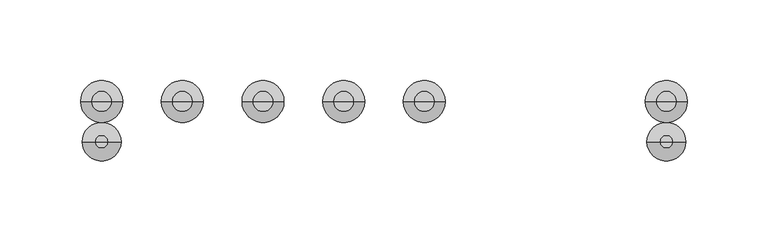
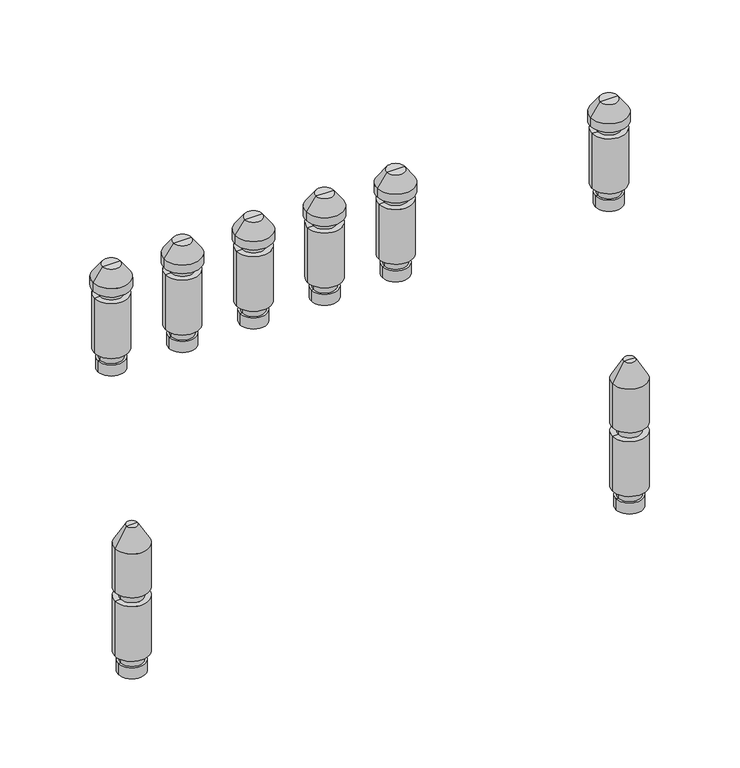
"""IFC4 building model written with IfcOpenShell, lengths in millimetres: valve geometry, PL CZ_Manifold_FT-VA : 09 circuits."""

from ifc_helpers import new_model, si_unit, frame, origin, place, context, project, spatial, polyline, circle_curve, source, transform, mapped, element, save
from ifc_brep_helpers import plane_surface, cylinder_surface, revolved_surface, advanced_brep


def valve_8079e6f7(model_context):
    return source(origin(), model_context, "Body", "AdvancedBrep", [
        advanced_brep(
        [(278.5, 25.0, 174.88733), (297.5, 25.0, 174.88733), (288.0, 25.0, 174.88733), (278.5, 25.0, 182.9630354), (297.5, 25.0, 182.9630354), (280.0, 25.0, 182.9630354), (296.0, 25.0, 182.9630354), (280.0, 25.0, 189.669747), (296.0, 25.0, 189.669747), (276.0, 25.0, 189.669747), (300.0, 25.0, 189.669747), (276.0, 25.0, 230.330253), (300.0, 25.0, 230.330253), (280.0, 25.0, 230.330253), (296.0, 25.0, 230.330253), (280.0, 25.0, 236.0474786), (296.0, 25.0, 236.0474786), (275.0, 25.0, 236.0474786), (301.0, 25.0, 236.0474786), (275.0, 25.0, 242.337955), (301.0, 25.0, 242.337955), (281.6551779, 25.0, 251.842534), (294.3448221, 25.0, 251.842534), (288.0, 25.0, 251.842534)],
        [
            (0, 1, circle_curve(frame((288.0, 25.0, 174.88733), z_axis=(0.0, 0.0, -1.0), x_axis=(1.0, 0.0, 0.0)), 9.5)),
            (1, 2),
            (2, 0),
            (1, 0, circle_curve(frame((288.0, 25.0, 174.88733), z_axis=(0.0, 0.0, -1.0), x_axis=(1.0, 0.0, 0.0)), 9.5)),
            (3, 4, circle_curve(frame((288.0, 25.0, 182.9630354), z_axis=(0.0, 0.0, -1.0), x_axis=(1.0, 0.0, 0.0)), 9.5)),
            (4, 1),
            (0, 3),
            (4, 3, circle_curve(frame((288.0, 25.0, 182.9630354), z_axis=(0.0, 0.0, -1.0), x_axis=(1.0, 0.0, 0.0)), 9.5)),
            (5, 6, circle_curve(frame((288.0, 25.0, 182.9630354), z_axis=(0.0, 0.0, -1.0), x_axis=(1.0, 0.0, 0.0)), 8.0)),
            (6, 4),
            (3, 5),
            (6, 5, circle_curve(frame((288.0, 25.0, 182.9630354), z_axis=(0.0, 0.0, -1.0), x_axis=(1.0, 0.0, 0.0)), 8.0)),
            (7, 8, circle_curve(frame((288.0, 25.0, 189.669747), z_axis=(0.0, 0.0, -1.0), x_axis=(1.0, 0.0, 0.0)), 8.0)),
            (8, 6),
            (5, 7),
            (8, 7, circle_curve(frame((288.0, 25.0, 189.669747), z_axis=(0.0, 0.0, -1.0), x_axis=(1.0, 0.0, 0.0)), 8.0)),
            (9, 10, circle_curve(frame((288.0, 25.0, 189.669747), z_axis=(0.0, 0.0, -1.0), x_axis=(1.0, 0.0, 0.0)), 12.0)),
            (10, 8),
            (7, 9),
            (10, 9, circle_curve(frame((288.0, 25.0, 189.669747), z_axis=(0.0, 0.0, -1.0), x_axis=(1.0, 0.0, 0.0)), 12.0)),
            (11, 12, circle_curve(frame((288.0, 25.0, 230.330253), z_axis=(0.0, 0.0, -1.0), x_axis=(1.0, 0.0, 0.0)), 12.0)),
            (12, 10),
            (9, 11),
            (12, 11, circle_curve(frame((288.0, 25.0, 230.330253), z_axis=(0.0, 0.0, -1.0), x_axis=(1.0, 0.0, 0.0)), 12.0)),
            (13, 14, circle_curve(frame((288.0, 25.0, 230.330253), z_axis=(0.0, 0.0, -1.0), x_axis=(1.0, 0.0, 0.0)), 8.0)),
            (14, 12),
            (11, 13),
            (14, 13, circle_curve(frame((288.0, 25.0, 230.330253), z_axis=(0.0, 0.0, -1.0), x_axis=(1.0, 0.0, 0.0)), 8.0)),
            (15, 16, circle_curve(frame((288.0, 25.0, 236.0474786), z_axis=(0.0, 0.0, -1.0), x_axis=(1.0, 0.0, 0.0)), 8.0)),
            (16, 14),
            (13, 15),
            (16, 15, circle_curve(frame((288.0, 25.0, 236.0474786), z_axis=(0.0, 0.0, -1.0), x_axis=(1.0, 0.0, 0.0)), 8.0)),
            (17, 18, circle_curve(frame((288.0, 25.0, 236.0474786), z_axis=(0.0, 0.0, -1.0), x_axis=(1.0, 0.0, 0.0)), 13.0)),
            (18, 16),
            (15, 17),
            (18, 17, circle_curve(frame((288.0, 25.0, 236.0474786), z_axis=(0.0, 0.0, -1.0), x_axis=(1.0, 0.0, 0.0)), 13.0)),
            (19, 20, circle_curve(frame((288.0, 25.0, 242.337955), z_axis=(0.0, 0.0, -1.0), x_axis=(1.0, 0.0, 0.0)), 13.0)),
            (20, 18),
            (17, 19),
            (20, 19, circle_curve(frame((288.0, 25.0, 242.337955), z_axis=(0.0, 0.0, -1.0), x_axis=(1.0, 0.0, 0.0)), 13.0)),
            (21, 22, circle_curve(frame((288.0, 25.0, 251.842534), z_axis=(0.0, 0.0, -1.0), x_axis=(1.0, 0.0, 0.0)), 6.3448221)),
            (22, 20),
            (19, 21),
            (22, 21, circle_curve(frame((288.0, 25.0, 251.842534), z_axis=(0.0, 0.0, -1.0), x_axis=(1.0, 0.0, 0.0)), 6.3448221)),
            (23, 22),
            (21, 23),
        ],
        [
            plane_surface(frame((288.0, 25.0, 174.88733), z_axis=(0.0, 0.0, -1.0), x_axis=(1.0, 0.0, 0.0))),
            cylinder_surface(frame((288.0, 25.0, 247.7026565), z_axis=(0.0, 0.0, 1.0), x_axis=(1.0, 0.0, 0.0)), 9.5),
            plane_surface(frame((288.0, 25.0, 182.9630354), z_axis=(0.0, 0.0, 1.0), x_axis=(1.0, 0.0, 0.0))),
            cylinder_surface(frame((288.0, 25.0, 247.7026565), z_axis=(0.0, 0.0, 1.0), x_axis=(1.0, 0.0, 0.0)), 8.0),
            plane_surface(frame((288.0, 25.0, 189.669747), z_axis=(0.0, 0.0, -1.0), x_axis=(1.0, 0.0, 0.0))),
            cylinder_surface(frame((288.0, 25.0, 247.7026565), z_axis=(0.0, 0.0, 1.0), x_axis=(1.0, 0.0, 0.0)), 12.0),
            plane_surface(frame((288.0, 25.0, 230.330253), z_axis=(0.0, 0.0, 1.0), x_axis=(1.0, 0.0, 0.0))),
            plane_surface(frame((288.0, 25.0, 236.0474786), z_axis=(0.0, 0.0, -1.0), x_axis=(1.0, 0.0, 0.0))),
            cylinder_surface(frame((288.0, 25.0, 247.7026565), z_axis=(0.0, 0.0, 1.0), x_axis=(1.0, 0.0, 0.0)), 13.0),
            revolved_surface(polyline([(301.0, 25.0, 242.337955), (294.3448221, 25.0, 251.842534)]), (288.0, 25.0, 247.7026565), (0.0, 0.0, 1.0)),
            plane_surface(frame((288.0, 25.0, 251.842534), z_axis=(0.0, 0.0, 1.0), x_axis=(1.0, 0.0, 0.0))),
        ],
        [
            (0, [[1, 2, 3]]),
            (0, [[4, -3, -2]]),
            (1, [[5, 6, -1, 7]]),
            (1, [[8, -7, -4, -6]]),
            (2, [[9, 10, -5, 11]]),
            (2, [[12, -11, -8, -10]]),
            (3, [[13, 14, -9, 15]]),
            (3, [[16, -15, -12, -14]]),
            (4, [[17, 18, -13, 19]]),
            (4, [[20, -19, -16, -18]]),
            (5, [[21, 22, -17, 23]]),
            (5, [[24, -23, -20, -22]]),
            (6, [[25, 26, -21, 27]]),
            (6, [[28, -27, -24, -26]]),
            (3, [[29, 30, -25, 31]]),
            (3, [[32, -31, -28, -30]]),
            (7, [[33, 34, -29, 35]]),
            (7, [[36, -35, -32, -34]]),
            (8, [[37, 38, -33, 39]]),
            (8, [[40, -39, -36, -38]]),
            (9, [[41, 42, -37, 43]]),
            (9, [[44, -43, -40, -42]]),
            (10, [[45, -41, 46]]),
            (10, [[-46, -44, -45]]),
        ],
    ),
        advanced_brep(
        [(228.5, 25.0, 174.88733), (247.5, 25.0, 174.88733), (238.0, 25.0, 174.88733), (228.5, 25.0, 182.9630354), (247.5, 25.0, 182.9630354), (230.0, 25.0, 182.9630354), (246.0, 25.0, 182.9630354), (230.0, 25.0, 189.669747), (246.0, 25.0, 189.669747), (226.0, 25.0, 189.669747), (250.0, 25.0, 189.669747), (226.0, 25.0, 230.330253), (250.0, 25.0, 230.330253), (230.0, 25.0, 230.330253), (246.0, 25.0, 230.330253), (230.0, 25.0, 236.0474786), (246.0, 25.0, 236.0474786), (225.0, 25.0, 236.0474786), (251.0, 25.0, 236.0474786), (225.0, 25.0, 242.337955), (251.0, 25.0, 242.337955), (231.6551779, 25.0, 251.842534), (244.3448221, 25.0, 251.842534), (238.0, 25.0, 251.842534)],
        [
            (0, 1, circle_curve(frame((238.0, 25.0, 174.88733), z_axis=(0.0, 0.0, -1.0), x_axis=(1.0, 0.0, 0.0)), 9.5)),
            (1, 2),
            (2, 0),
            (1, 0, circle_curve(frame((238.0, 25.0, 174.88733), z_axis=(0.0, 0.0, -1.0), x_axis=(1.0, 0.0, 0.0)), 9.5)),
            (3, 4, circle_curve(frame((238.0, 25.0, 182.9630354), z_axis=(0.0, 0.0, -1.0), x_axis=(1.0, 0.0, 0.0)), 9.5)),
            (4, 1),
            (0, 3),
            (4, 3, circle_curve(frame((238.0, 25.0, 182.9630354), z_axis=(0.0, 0.0, -1.0), x_axis=(1.0, 0.0, 0.0)), 9.5)),
            (5, 6, circle_curve(frame((238.0, 25.0, 182.9630354), z_axis=(0.0, 0.0, -1.0), x_axis=(1.0, 0.0, 0.0)), 8.0)),
            (6, 4),
            (3, 5),
            (6, 5, circle_curve(frame((238.0, 25.0, 182.9630354), z_axis=(0.0, 0.0, -1.0), x_axis=(1.0, 0.0, 0.0)), 8.0)),
            (7, 8, circle_curve(frame((238.0, 25.0, 189.669747), z_axis=(0.0, 0.0, -1.0), x_axis=(1.0, 0.0, 0.0)), 8.0)),
            (8, 6),
            (5, 7),
            (8, 7, circle_curve(frame((238.0, 25.0, 189.669747), z_axis=(0.0, 0.0, -1.0), x_axis=(1.0, 0.0, 0.0)), 8.0)),
            (9, 10, circle_curve(frame((238.0, 25.0, 189.669747), z_axis=(0.0, 0.0, -1.0), x_axis=(1.0, 0.0, 0.0)), 12.0)),
            (10, 8),
            (7, 9),
            (10, 9, circle_curve(frame((238.0, 25.0, 189.669747), z_axis=(0.0, 0.0, -1.0), x_axis=(1.0, 0.0, 0.0)), 12.0)),
            (11, 12, circle_curve(frame((238.0, 25.0, 230.330253), z_axis=(0.0, 0.0, -1.0), x_axis=(1.0, 0.0, 0.0)), 12.0)),
            (12, 10),
            (9, 11),
            (12, 11, circle_curve(frame((238.0, 25.0, 230.330253), z_axis=(0.0, 0.0, -1.0), x_axis=(1.0, 0.0, 0.0)), 12.0)),
            (13, 14, circle_curve(frame((238.0, 25.0, 230.330253), z_axis=(0.0, 0.0, -1.0), x_axis=(1.0, 0.0, 0.0)), 8.0)),
            (14, 12),
            (11, 13),
            (14, 13, circle_curve(frame((238.0, 25.0, 230.330253), z_axis=(0.0, 0.0, -1.0), x_axis=(1.0, 0.0, 0.0)), 8.0)),
            (15, 16, circle_curve(frame((238.0, 25.0, 236.0474786), z_axis=(0.0, 0.0, -1.0), x_axis=(1.0, 0.0, 0.0)), 8.0)),
            (16, 14),
            (13, 15),
            (16, 15, circle_curve(frame((238.0, 25.0, 236.0474786), z_axis=(0.0, 0.0, -1.0), x_axis=(1.0, 0.0, 0.0)), 8.0)),
            (17, 18, circle_curve(frame((238.0, 25.0, 236.0474786), z_axis=(0.0, 0.0, -1.0), x_axis=(1.0, 0.0, 0.0)), 13.0)),
            (18, 16),
            (15, 17),
            (18, 17, circle_curve(frame((238.0, 25.0, 236.0474786), z_axis=(0.0, 0.0, -1.0), x_axis=(1.0, 0.0, 0.0)), 13.0)),
            (19, 20, circle_curve(frame((238.0, 25.0, 242.337955), z_axis=(0.0, 0.0, -1.0), x_axis=(1.0, 0.0, 0.0)), 13.0)),
            (20, 18),
            (17, 19),
            (20, 19, circle_curve(frame((238.0, 25.0, 242.337955), z_axis=(0.0, 0.0, -1.0), x_axis=(1.0, 0.0, 0.0)), 13.0)),
            (21, 22, circle_curve(frame((238.0, 25.0, 251.842534), z_axis=(0.0, 0.0, -1.0), x_axis=(1.0, 0.0, 0.0)), 6.3448221)),
            (22, 20),
            (19, 21),
            (22, 21, circle_curve(frame((238.0, 25.0, 251.842534), z_axis=(0.0, 0.0, -1.0), x_axis=(1.0, 0.0, 0.0)), 6.3448221)),
            (23, 22),
            (21, 23),
        ],
        [
            plane_surface(frame((238.0, 25.0, 174.88733), z_axis=(0.0, 0.0, -1.0), x_axis=(1.0, 0.0, 0.0))),
            cylinder_surface(frame((238.0, 25.0, 247.7026565), z_axis=(0.0, 0.0, 1.0), x_axis=(1.0, 0.0, 0.0)), 9.5),
            plane_surface(frame((238.0, 25.0, 182.9630354), z_axis=(0.0, 0.0, 1.0), x_axis=(1.0, 0.0, 0.0))),
            cylinder_surface(frame((238.0, 25.0, 247.7026565), z_axis=(0.0, 0.0, 1.0), x_axis=(1.0, 0.0, 0.0)), 8.0),
            plane_surface(frame((238.0, 25.0, 189.669747), z_axis=(0.0, 0.0, -1.0), x_axis=(1.0, 0.0, 0.0))),
            cylinder_surface(frame((238.0, 25.0, 247.7026565), z_axis=(0.0, 0.0, 1.0), x_axis=(1.0, 0.0, 0.0)), 12.0),
            plane_surface(frame((238.0, 25.0, 230.330253), z_axis=(0.0, 0.0, 1.0), x_axis=(1.0, 0.0, 0.0))),
            plane_surface(frame((238.0, 25.0, 236.0474786), z_axis=(0.0, 0.0, -1.0), x_axis=(1.0, 0.0, 0.0))),
            cylinder_surface(frame((238.0, 25.0, 247.7026565), z_axis=(0.0, 0.0, 1.0), x_axis=(1.0, 0.0, 0.0)), 13.0),
            revolved_surface(polyline([(251.0, 25.0, 242.337955), (244.3448221, 25.0, 251.842534)]), (238.0, 25.0, 247.7026565), (0.0, 0.0, 1.0)),
            plane_surface(frame((238.0, 25.0, 251.842534), z_axis=(0.0, 0.0, 1.0), x_axis=(1.0, 0.0, 0.0))),
        ],
        [
            (0, [[1, 2, 3]]),
            (0, [[4, -3, -2]]),
            (1, [[5, 6, -1, 7]]),
            (1, [[8, -7, -4, -6]]),
            (2, [[9, 10, -5, 11]]),
            (2, [[12, -11, -8, -10]]),
            (3, [[13, 14, -9, 15]]),
            (3, [[16, -15, -12, -14]]),
            (4, [[17, 18, -13, 19]]),
            (4, [[20, -19, -16, -18]]),
            (5, [[21, 22, -17, 23]]),
            (5, [[24, -23, -20, -22]]),
            (6, [[25, 26, -21, 27]]),
            (6, [[28, -27, -24, -26]]),
            (3, [[29, 30, -25, 31]]),
            (3, [[32, -31, -28, -30]]),
            (7, [[33, 34, -29, 35]]),
            (7, [[36, -35, -32, -34]]),
            (8, [[37, 38, -33, 39]]),
            (8, [[40, -39, -36, -38]]),
            (9, [[41, 42, -37, 43]]),
            (9, [[44, -43, -40, -42]]),
            (10, [[45, -41, 46]]),
            (10, [[-46, -44, -45]]),
        ],
    ),
        advanced_brep(
        [(178.5, 25.0, 174.88733), (197.5, 25.0, 174.88733), (188.0, 25.0, 174.88733), (178.5, 25.0, 182.9630354), (197.5, 25.0, 182.9630354), (180.0, 25.0, 182.9630354), (196.0, 25.0, 182.9630354), (180.0, 25.0, 189.669747), (196.0, 25.0, 189.669747), (176.0, 25.0, 189.669747), (200.0, 25.0, 189.669747), (176.0, 25.0, 230.330253), (200.0, 25.0, 230.330253), (180.0, 25.0, 230.330253), (196.0, 25.0, 230.330253), (180.0, 25.0, 236.0474786), (196.0, 25.0, 236.0474786), (175.0, 25.0, 236.0474786), (201.0, 25.0, 236.0474786), (175.0, 25.0, 242.337955), (201.0, 25.0, 242.337955), (181.6551779, 25.0, 251.842534), (194.3448221, 25.0, 251.842534), (188.0, 25.0, 251.842534)],
        [
            (0, 1, circle_curve(frame((188.0, 25.0, 174.88733), z_axis=(0.0, 0.0, -1.0), x_axis=(1.0, 0.0, 0.0)), 9.5)),
            (1, 2),
            (2, 0),
            (1, 0, circle_curve(frame((188.0, 25.0, 174.88733), z_axis=(0.0, 0.0, -1.0), x_axis=(1.0, 0.0, 0.0)), 9.5)),
            (3, 4, circle_curve(frame((188.0, 25.0, 182.9630354), z_axis=(0.0, 0.0, -1.0), x_axis=(1.0, 0.0, 0.0)), 9.5)),
            (4, 1),
            (0, 3),
            (4, 3, circle_curve(frame((188.0, 25.0, 182.9630354), z_axis=(0.0, 0.0, -1.0), x_axis=(1.0, 0.0, 0.0)), 9.5)),
            (5, 6, circle_curve(frame((188.0, 25.0, 182.9630354), z_axis=(0.0, 0.0, -1.0), x_axis=(1.0, 0.0, 0.0)), 8.0)),
            (6, 4),
            (3, 5),
            (6, 5, circle_curve(frame((188.0, 25.0, 182.9630354), z_axis=(0.0, 0.0, -1.0), x_axis=(1.0, 0.0, 0.0)), 8.0)),
            (7, 8, circle_curve(frame((188.0, 25.0, 189.669747), z_axis=(0.0, 0.0, -1.0), x_axis=(1.0, 0.0, 0.0)), 8.0)),
            (8, 6),
            (5, 7),
            (8, 7, circle_curve(frame((188.0, 25.0, 189.669747), z_axis=(0.0, 0.0, -1.0), x_axis=(1.0, 0.0, 0.0)), 8.0)),
            (9, 10, circle_curve(frame((188.0, 25.0, 189.669747), z_axis=(0.0, 0.0, -1.0), x_axis=(1.0, 0.0, 0.0)), 12.0)),
            (10, 8),
            (7, 9),
            (10, 9, circle_curve(frame((188.0, 25.0, 189.669747), z_axis=(0.0, 0.0, -1.0), x_axis=(1.0, 0.0, 0.0)), 12.0)),
            (11, 12, circle_curve(frame((188.0, 25.0, 230.330253), z_axis=(0.0, 0.0, -1.0), x_axis=(1.0, 0.0, 0.0)), 12.0)),
            (12, 10),
            (9, 11),
            (12, 11, circle_curve(frame((188.0, 25.0, 230.330253), z_axis=(0.0, 0.0, -1.0), x_axis=(1.0, 0.0, 0.0)), 12.0)),
            (13, 14, circle_curve(frame((188.0, 25.0, 230.330253), z_axis=(0.0, 0.0, -1.0), x_axis=(1.0, 0.0, 0.0)), 8.0)),
            (14, 12),
            (11, 13),
            (14, 13, circle_curve(frame((188.0, 25.0, 230.330253), z_axis=(0.0, 0.0, -1.0), x_axis=(1.0, 0.0, 0.0)), 8.0)),
            (15, 16, circle_curve(frame((188.0, 25.0, 236.0474786), z_axis=(0.0, 0.0, -1.0), x_axis=(1.0, 0.0, 0.0)), 8.0)),
            (16, 14),
            (13, 15),
            (16, 15, circle_curve(frame((188.0, 25.0, 236.0474786), z_axis=(0.0, 0.0, -1.0), x_axis=(1.0, 0.0, 0.0)), 8.0)),
            (17, 18, circle_curve(frame((188.0, 25.0, 236.0474786), z_axis=(0.0, 0.0, -1.0), x_axis=(1.0, 0.0, 0.0)), 13.0)),
            (18, 16),
            (15, 17),
            (18, 17, circle_curve(frame((188.0, 25.0, 236.0474786), z_axis=(0.0, 0.0, -1.0), x_axis=(1.0, 0.0, 0.0)), 13.0)),
            (19, 20, circle_curve(frame((188.0, 25.0, 242.337955), z_axis=(0.0, 0.0, -1.0), x_axis=(1.0, 0.0, 0.0)), 13.0)),
            (20, 18),
            (17, 19),
            (20, 19, circle_curve(frame((188.0, 25.0, 242.337955), z_axis=(0.0, 0.0, -1.0), x_axis=(1.0, 0.0, 0.0)), 13.0)),
            (21, 22, circle_curve(frame((188.0, 25.0, 251.842534), z_axis=(0.0, 0.0, -1.0), x_axis=(1.0, 0.0, 0.0)), 6.3448221)),
            (22, 20),
            (19, 21),
            (22, 21, circle_curve(frame((188.0, 25.0, 251.842534), z_axis=(0.0, 0.0, -1.0), x_axis=(1.0, 0.0, 0.0)), 6.3448221)),
            (23, 22),
            (21, 23),
        ],
        [
            plane_surface(frame((188.0, 25.0, 174.88733), z_axis=(0.0, 0.0, -1.0), x_axis=(1.0, 0.0, 0.0))),
            cylinder_surface(frame((188.0, 25.0, 247.7026565), z_axis=(0.0, 0.0, 1.0), x_axis=(1.0, 0.0, 0.0)), 9.5),
            plane_surface(frame((188.0, 25.0, 182.9630354), z_axis=(0.0, 0.0, 1.0), x_axis=(1.0, 0.0, 0.0))),
            cylinder_surface(frame((188.0, 25.0, 247.7026565), z_axis=(0.0, 0.0, 1.0), x_axis=(1.0, 0.0, 0.0)), 8.0),
            plane_surface(frame((188.0, 25.0, 189.669747), z_axis=(0.0, 0.0, -1.0), x_axis=(1.0, 0.0, 0.0))),
            cylinder_surface(frame((188.0, 25.0, 247.7026565), z_axis=(0.0, 0.0, 1.0), x_axis=(1.0, 0.0, 0.0)), 12.0),
            plane_surface(frame((188.0, 25.0, 230.330253), z_axis=(0.0, 0.0, 1.0), x_axis=(1.0, 0.0, 0.0))),
            plane_surface(frame((188.0, 25.0, 236.0474786), z_axis=(0.0, 0.0, -1.0), x_axis=(1.0, 0.0, 0.0))),
            cylinder_surface(frame((188.0, 25.0, 247.7026565), z_axis=(0.0, 0.0, 1.0), x_axis=(1.0, 0.0, 0.0)), 13.0),
            revolved_surface(polyline([(201.0, 25.0, 242.337955), (194.3448221, 25.0, 251.842534)]), (188.0, 25.0, 247.7026565), (0.0, 0.0, 1.0)),
            plane_surface(frame((188.0, 25.0, 251.842534), z_axis=(0.0, 0.0, 1.0), x_axis=(1.0, 0.0, 0.0))),
        ],
        [
            (0, [[1, 2, 3]]),
            (0, [[4, -3, -2]]),
            (1, [[5, 6, -1, 7]]),
            (1, [[8, -7, -4, -6]]),
            (2, [[9, 10, -5, 11]]),
            (2, [[12, -11, -8, -10]]),
            (3, [[13, 14, -9, 15]]),
            (3, [[16, -15, -12, -14]]),
            (4, [[17, 18, -13, 19]]),
            (4, [[20, -19, -16, -18]]),
            (5, [[21, 22, -17, 23]]),
            (5, [[24, -23, -20, -22]]),
            (6, [[25, 26, -21, 27]]),
            (6, [[28, -27, -24, -26]]),
            (3, [[29, 30, -25, 31]]),
            (3, [[32, -31, -28, -30]]),
            (7, [[33, 34, -29, 35]]),
            (7, [[36, -35, -32, -34]]),
            (8, [[37, 38, -33, 39]]),
            (8, [[40, -39, -36, -38]]),
            (9, [[41, 42, -37, 43]]),
            (9, [[44, -43, -40, -42]]),
            (10, [[45, -41, 46]]),
            (10, [[-46, -44, -45]]),
        ],
    ),
        advanced_brep(
        [(128.5, 25.0, 174.88733), (147.5, 25.0, 174.88733), (138.0, 25.0, 174.88733), (128.5, 25.0, 182.9630354), (147.5, 25.0, 182.9630354), (130.0, 25.0, 182.9630354), (146.0, 25.0, 182.9630354), (130.0, 25.0, 189.669747), (146.0, 25.0, 189.669747), (126.0, 25.0, 189.669747), (150.0, 25.0, 189.669747), (126.0, 25.0, 230.330253), (150.0, 25.0, 230.330253), (130.0, 25.0, 230.330253), (146.0, 25.0, 230.330253), (130.0, 25.0, 236.0474786), (146.0, 25.0, 236.0474786), (125.0, 25.0, 236.0474786), (151.0, 25.0, 236.0474786), (125.0, 25.0, 242.337955), (151.0, 25.0, 242.337955), (131.6551779, 25.0, 251.842534), (144.3448221, 25.0, 251.842534), (138.0, 25.0, 251.842534)],
        [
            (0, 1, circle_curve(frame((138.0, 25.0, 174.88733), z_axis=(0.0, 0.0, -1.0), x_axis=(1.0, 0.0, 0.0)), 9.5)),
            (1, 2),
            (2, 0),
            (1, 0, circle_curve(frame((138.0, 25.0, 174.88733), z_axis=(0.0, 0.0, -1.0), x_axis=(1.0, 0.0, 0.0)), 9.5)),
            (3, 4, circle_curve(frame((138.0, 25.0, 182.9630354), z_axis=(0.0, 0.0, -1.0), x_axis=(1.0, 0.0, 0.0)), 9.5)),
            (4, 1),
            (0, 3),
            (4, 3, circle_curve(frame((138.0, 25.0, 182.9630354), z_axis=(0.0, 0.0, -1.0), x_axis=(1.0, 0.0, 0.0)), 9.5)),
            (5, 6, circle_curve(frame((138.0, 25.0, 182.9630354), z_axis=(0.0, 0.0, -1.0), x_axis=(1.0, 0.0, 0.0)), 8.0)),
            (6, 4),
            (3, 5),
            (6, 5, circle_curve(frame((138.0, 25.0, 182.9630354), z_axis=(0.0, 0.0, -1.0), x_axis=(1.0, 0.0, 0.0)), 8.0)),
            (7, 8, circle_curve(frame((138.0, 25.0, 189.669747), z_axis=(0.0, 0.0, -1.0), x_axis=(1.0, 0.0, 0.0)), 8.0)),
            (8, 6),
            (5, 7),
            (8, 7, circle_curve(frame((138.0, 25.0, 189.669747), z_axis=(0.0, 0.0, -1.0), x_axis=(1.0, 0.0, 0.0)), 8.0)),
            (9, 10, circle_curve(frame((138.0, 25.0, 189.669747), z_axis=(0.0, 0.0, -1.0), x_axis=(1.0, 0.0, 0.0)), 12.0)),
            (10, 8),
            (7, 9),
            (10, 9, circle_curve(frame((138.0, 25.0, 189.669747), z_axis=(0.0, 0.0, -1.0), x_axis=(1.0, 0.0, 0.0)), 12.0)),
            (11, 12, circle_curve(frame((138.0, 25.0, 230.330253), z_axis=(0.0, 0.0, -1.0), x_axis=(1.0, 0.0, 0.0)), 12.0)),
            (12, 10),
            (9, 11),
            (12, 11, circle_curve(frame((138.0, 25.0, 230.330253), z_axis=(0.0, 0.0, -1.0), x_axis=(1.0, 0.0, 0.0)), 12.0)),
            (13, 14, circle_curve(frame((138.0, 25.0, 230.330253), z_axis=(0.0, 0.0, -1.0), x_axis=(1.0, 0.0, 0.0)), 8.0)),
            (14, 12),
            (11, 13),
            (14, 13, circle_curve(frame((138.0, 25.0, 230.330253), z_axis=(0.0, 0.0, -1.0), x_axis=(1.0, 0.0, 0.0)), 8.0)),
            (15, 16, circle_curve(frame((138.0, 25.0, 236.0474786), z_axis=(0.0, 0.0, -1.0), x_axis=(1.0, 0.0, 0.0)), 8.0)),
            (16, 14),
            (13, 15),
            (16, 15, circle_curve(frame((138.0, 25.0, 236.0474786), z_axis=(0.0, 0.0, -1.0), x_axis=(1.0, 0.0, 0.0)), 8.0)),
            (17, 18, circle_curve(frame((138.0, 25.0, 236.0474786), z_axis=(0.0, 0.0, -1.0), x_axis=(1.0, 0.0, 0.0)), 13.0)),
            (18, 16),
            (15, 17),
            (18, 17, circle_curve(frame((138.0, 25.0, 236.0474786), z_axis=(0.0, 0.0, -1.0), x_axis=(1.0, 0.0, 0.0)), 13.0)),
            (19, 20, circle_curve(frame((138.0, 25.0, 242.337955), z_axis=(0.0, 0.0, -1.0), x_axis=(1.0, 0.0, 0.0)), 13.0)),
            (20, 18),
            (17, 19),
            (20, 19, circle_curve(frame((138.0, 25.0, 242.337955), z_axis=(0.0, 0.0, -1.0), x_axis=(1.0, 0.0, 0.0)), 13.0)),
            (21, 22, circle_curve(frame((138.0, 25.0, 251.842534), z_axis=(0.0, 0.0, -1.0), x_axis=(1.0, 0.0, 0.0)), 6.3448221)),
            (22, 20),
            (19, 21),
            (22, 21, circle_curve(frame((138.0, 25.0, 251.842534), z_axis=(0.0, 0.0, -1.0), x_axis=(1.0, 0.0, 0.0)), 6.3448221)),
            (23, 22),
            (21, 23),
        ],
        [
            plane_surface(frame((138.0, 25.0, 174.88733), z_axis=(0.0, 0.0, -1.0), x_axis=(1.0, 0.0, 0.0))),
            cylinder_surface(frame((138.0, 25.0, 247.7026565), z_axis=(0.0, 0.0, 1.0), x_axis=(1.0, 0.0, 0.0)), 9.5),
            plane_surface(frame((138.0, 25.0, 182.9630354), z_axis=(0.0, 0.0, 1.0), x_axis=(1.0, 0.0, 0.0))),
            cylinder_surface(frame((138.0, 25.0, 247.7026565), z_axis=(0.0, 0.0, 1.0), x_axis=(1.0, 0.0, 0.0)), 8.0),
            plane_surface(frame((138.0, 25.0, 189.669747), z_axis=(0.0, 0.0, -1.0), x_axis=(1.0, 0.0, 0.0))),
            cylinder_surface(frame((138.0, 25.0, 247.7026565), z_axis=(0.0, 0.0, 1.0), x_axis=(1.0, 0.0, 0.0)), 12.0),
            plane_surface(frame((138.0, 25.0, 230.330253), z_axis=(0.0, 0.0, 1.0), x_axis=(1.0, 0.0, 0.0))),
            plane_surface(frame((138.0, 25.0, 236.0474786), z_axis=(0.0, 0.0, -1.0), x_axis=(1.0, 0.0, 0.0))),
            cylinder_surface(frame((138.0, 25.0, 247.7026565), z_axis=(0.0, 0.0, 1.0), x_axis=(1.0, 0.0, 0.0)), 13.0),
            revolved_surface(polyline([(151.0, 25.0, 242.337955), (144.3448221, 25.0, 251.842534)]), (138.0, 25.0, 247.7026565), (0.0, 0.0, 1.0)),
            plane_surface(frame((138.0, 25.0, 251.842534), z_axis=(0.0, 0.0, 1.0), x_axis=(1.0, 0.0, 0.0))),
        ],
        [
            (0, [[1, 2, 3]]),
            (0, [[4, -3, -2]]),
            (1, [[5, 6, -1, 7]]),
            (1, [[8, -7, -4, -6]]),
            (2, [[9, 10, -5, 11]]),
            (2, [[12, -11, -8, -10]]),
            (3, [[13, 14, -9, 15]]),
            (3, [[16, -15, -12, -14]]),
            (4, [[17, 18, -13, 19]]),
            (4, [[20, -19, -16, -18]]),
            (5, [[21, 22, -17, 23]]),
            (5, [[24, -23, -20, -22]]),
            (6, [[25, 26, -21, 27]]),
            (6, [[28, -27, -24, -26]]),
            (3, [[29, 30, -25, 31]]),
            (3, [[32, -31, -28, -30]]),
            (7, [[33, 34, -29, 35]]),
            (7, [[36, -35, -32, -34]]),
            (8, [[37, 38, -33, 39]]),
            (8, [[40, -39, -36, -38]]),
            (9, [[41, 42, -37, 43]]),
            (9, [[44, -43, -40, -42]]),
            (10, [[45, -41, 46]]),
            (10, [[-46, -44, -45]]),
        ],
    ),
        advanced_brep(
        [(78.5, 0.0, -35.11267), (97.5, 0.0, -35.11267), (88.0, 0.0, -35.11267), (78.5, 0.0, -27.0369646), (97.5, 0.0, -27.0369646), (80.0, 0.0, -27.0369646), (96.0, 0.0, -27.0369646), (80.0, 0.0, -20.330253), (96.0, 0.0, -20.330253), (76.0, 0.0, -20.330253), (100.0, 0.0, -20.330253), (76.0, 0.0, 20.330253), (100.0, 0.0, 20.330253), (80.0, 0.0, 20.330253), (96.0, 0.0, 20.330253), (80.0, 0.0, 27.0474786), (96.0, 0.0, 27.0474786), (76.0, 0.0, 27.0474786), (100.0, 0.0, 27.0474786), (76.0, 0.0, 59.4084325), (100.0, 0.0, 59.4084325), (84.0, 0.0, 73.264839), (92.0, 0.0, 73.264839), (88.0, 0.0, 73.264839)],
        [
            (0, 1, circle_curve(frame((88.0, 0.0, -35.11267), z_axis=(0.0, 0.0, -1.0), x_axis=(1.0, 0.0, 0.0)), 9.5)),
            (1, 2),
            (2, 0),
            (1, 0, circle_curve(frame((88.0, 0.0, -35.11267), z_axis=(0.0, 0.0, -1.0), x_axis=(1.0, 0.0, 0.0)), 9.5)),
            (3, 4, circle_curve(frame((88.0, 0.0, -27.0369646), z_axis=(0.0, 0.0, -1.0), x_axis=(1.0, 0.0, 0.0)), 9.5)),
            (4, 1),
            (0, 3),
            (4, 3, circle_curve(frame((88.0, 0.0, -27.0369646), z_axis=(0.0, 0.0, -1.0), x_axis=(1.0, 0.0, 0.0)), 9.5)),
            (5, 6, circle_curve(frame((88.0, 0.0, -27.0369646), z_axis=(0.0, 0.0, -1.0), x_axis=(1.0, 0.0, 0.0)), 8.0)),
            (6, 4),
            (3, 5),
            (6, 5, circle_curve(frame((88.0, 0.0, -27.0369646), z_axis=(0.0, 0.0, -1.0), x_axis=(1.0, 0.0, 0.0)), 8.0)),
            (7, 8, circle_curve(frame((88.0, 0.0, -20.330253), z_axis=(0.0, 0.0, -1.0), x_axis=(1.0, 0.0, 0.0)), 8.0)),
            (8, 6),
            (5, 7),
            (8, 7, circle_curve(frame((88.0, 0.0, -20.330253), z_axis=(0.0, 0.0, -1.0), x_axis=(1.0, 0.0, 0.0)), 8.0)),
            (9, 10, circle_curve(frame((88.0, 0.0, -20.330253), z_axis=(0.0, 0.0, -1.0), x_axis=(1.0, 0.0, 0.0)), 12.0)),
            (10, 8),
            (7, 9),
            (10, 9, circle_curve(frame((88.0, 0.0, -20.330253), z_axis=(0.0, 0.0, -1.0), x_axis=(1.0, 0.0, 0.0)), 12.0)),
            (11, 12, circle_curve(frame((88.0, 0.0, 20.330253), z_axis=(0.0, 0.0, -1.0), x_axis=(1.0, 0.0, 0.0)), 12.0)),
            (12, 10),
            (9, 11),
            (12, 11, circle_curve(frame((88.0, 0.0, 20.330253), z_axis=(0.0, 0.0, -1.0), x_axis=(1.0, 0.0, 0.0)), 12.0)),
            (13, 14, circle_curve(frame((88.0, 0.0, 20.330253), z_axis=(0.0, 0.0, -1.0), x_axis=(1.0, 0.0, 0.0)), 8.0)),
            (14, 12),
            (11, 13),
            (14, 13, circle_curve(frame((88.0, 0.0, 20.330253), z_axis=(0.0, 0.0, -1.0), x_axis=(1.0, 0.0, 0.0)), 8.0)),
            (15, 16, circle_curve(frame((88.0, 0.0, 27.0474786), z_axis=(0.0, 0.0, -1.0), x_axis=(1.0, 0.0, 0.0)), 8.0)),
            (16, 14),
            (13, 15),
            (16, 15, circle_curve(frame((88.0, 0.0, 27.0474786), z_axis=(0.0, 0.0, -1.0), x_axis=(1.0, 0.0, 0.0)), 8.0)),
            (17, 18, circle_curve(frame((88.0, 0.0, 27.0474786), z_axis=(0.0, 0.0, -1.0), x_axis=(1.0, 0.0, 0.0)), 12.0)),
            (18, 16),
            (15, 17),
            (18, 17, circle_curve(frame((88.0, 0.0, 27.0474786), z_axis=(0.0, 0.0, -1.0), x_axis=(1.0, 0.0, 0.0)), 12.0)),
            (19, 20, circle_curve(frame((88.0, 0.0, 59.4084325), z_axis=(0.0, 0.0, -1.0), x_axis=(1.0, 0.0, 0.0)), 12.0)),
            (20, 18),
            (17, 19),
            (20, 19, circle_curve(frame((88.0, 0.0, 59.4084325), z_axis=(0.0, 0.0, -1.0), x_axis=(1.0, 0.0, 0.0)), 12.0)),
            (21, 22, circle_curve(frame((88.0, 0.0, 73.264839), z_axis=(0.0, 0.0, -1.0), x_axis=(1.0, 0.0, 0.0)), 4.0)),
            (22, 20),
            (19, 21),
            (22, 21, circle_curve(frame((88.0, 0.0, 73.264839), z_axis=(0.0, 0.0, -1.0), x_axis=(1.0, 0.0, 0.0)), 4.0)),
            (23, 22),
            (21, 23),
        ],
        [
            plane_surface(frame((88.0, 0.0, -35.11267), z_axis=(0.0, 0.0, -1.0), x_axis=(1.0, 0.0, 0.0))),
            cylinder_surface(frame((88.0, 0.0, 58.264839), z_axis=(0.0, 0.0, 1.0), x_axis=(1.0, 0.0, 0.0)), 9.5),
            plane_surface(frame((88.0, 0.0, -27.0369646), z_axis=(0.0, 0.0, 1.0), x_axis=(1.0, 0.0, 0.0))),
            cylinder_surface(frame((88.0, 0.0, 58.264839), z_axis=(0.0, 0.0, 1.0), x_axis=(1.0, 0.0, 0.0)), 8.0),
            plane_surface(frame((88.0, 0.0, -20.330253), z_axis=(0.0, 0.0, -1.0), x_axis=(1.0, 0.0, 0.0))),
            cylinder_surface(frame((88.0, 0.0, 58.264839), z_axis=(0.0, 0.0, 1.0), x_axis=(1.0, 0.0, 0.0)), 12.0),
            plane_surface(frame((88.0, 0.0, 20.330253), z_axis=(0.0, 0.0, 1.0), x_axis=(1.0, 0.0, 0.0))),
            plane_surface(frame((88.0, 0.0, 27.0474786), z_axis=(0.0, 0.0, -1.0), x_axis=(1.0, 0.0, 0.0))),
            revolved_surface(polyline([(100.0, 0.0, 59.4084325), (92.0, 0.0, 73.264839)]), (88.0, 0.0, 58.264839), (0.0, 0.0, 1.0)),
            plane_surface(frame((88.0, 0.0, 73.264839), z_axis=(0.0, 0.0, 1.0), x_axis=(1.0, 0.0, 0.0))),
        ],
        [
            (0, [[1, 2, 3]]),
            (0, [[4, -3, -2]]),
            (1, [[5, 6, -1, 7]]),
            (1, [[8, -7, -4, -6]]),
            (2, [[9, 10, -5, 11]]),
            (2, [[12, -11, -8, -10]]),
            (3, [[13, 14, -9, 15]]),
            (3, [[16, -15, -12, -14]]),
            (4, [[17, 18, -13, 19]]),
            (4, [[20, -19, -16, -18]]),
            (5, [[21, 22, -17, 23]]),
            (5, [[24, -23, -20, -22]]),
            (6, [[25, 26, -21, 27]]),
            (6, [[28, -27, -24, -26]]),
            (3, [[29, 30, -25, 31]]),
            (3, [[32, -31, -28, -30]]),
            (7, [[33, 34, -29, 35]]),
            (7, [[36, -35, -32, -34]]),
            (5, [[37, 38, -33, 39]]),
            (5, [[40, -39, -36, -38]]),
            (8, [[41, 42, -37, 43]]),
            (8, [[44, -43, -40, -42]]),
            (9, [[45, -41, 46]]),
            (9, [[-46, -44, -45]]),
        ],
    ),
        advanced_brep(
        [(78.5, 25.0, 174.88733), (97.5, 25.0, 174.88733), (88.0, 25.0, 174.88733), (78.5, 25.0, 182.9630354), (97.5, 25.0, 182.9630354), (80.0, 25.0, 182.9630354), (96.0, 25.0, 182.9630354), (80.0, 25.0, 189.669747), (96.0, 25.0, 189.669747), (76.0, 25.0, 189.669747), (100.0, 25.0, 189.669747), (76.0, 25.0, 230.330253), (100.0, 25.0, 230.330253), (80.0, 25.0, 230.330253), (96.0, 25.0, 230.330253), (80.0, 25.0, 236.0474786), (96.0, 25.0, 236.0474786), (75.0, 25.0, 236.0474786), (101.0, 25.0, 236.0474786), (75.0, 25.0, 242.337955), (101.0, 25.0, 242.337955), (81.6551779, 25.0, 251.842534), (94.3448221, 25.0, 251.842534), (88.0, 25.0, 251.842534)],
        [
            (0, 1, circle_curve(frame((88.0, 25.0, 174.88733), z_axis=(0.0, 0.0, -1.0), x_axis=(1.0, 0.0, 0.0)), 9.5)),
            (1, 2),
            (2, 0),
            (1, 0, circle_curve(frame((88.0, 25.0, 174.88733), z_axis=(0.0, 0.0, -1.0), x_axis=(1.0, 0.0, 0.0)), 9.5)),
            (3, 4, circle_curve(frame((88.0, 25.0, 182.9630354), z_axis=(0.0, 0.0, -1.0), x_axis=(1.0, 0.0, 0.0)), 9.5)),
            (4, 1),
            (0, 3),
            (4, 3, circle_curve(frame((88.0, 25.0, 182.9630354), z_axis=(0.0, 0.0, -1.0), x_axis=(1.0, 0.0, 0.0)), 9.5)),
            (5, 6, circle_curve(frame((88.0, 25.0, 182.9630354), z_axis=(0.0, 0.0, -1.0), x_axis=(1.0, 0.0, 0.0)), 8.0)),
            (6, 4),
            (3, 5),
            (6, 5, circle_curve(frame((88.0, 25.0, 182.9630354), z_axis=(0.0, 0.0, -1.0), x_axis=(1.0, 0.0, 0.0)), 8.0)),
            (7, 8, circle_curve(frame((88.0, 25.0, 189.669747), z_axis=(0.0, 0.0, -1.0), x_axis=(1.0, 0.0, 0.0)), 8.0)),
            (8, 6),
            (5, 7),
            (8, 7, circle_curve(frame((88.0, 25.0, 189.669747), z_axis=(0.0, 0.0, -1.0), x_axis=(1.0, 0.0, 0.0)), 8.0)),
            (9, 10, circle_curve(frame((88.0, 25.0, 189.669747), z_axis=(0.0, 0.0, -1.0), x_axis=(1.0, 0.0, 0.0)), 12.0)),
            (10, 8),
            (7, 9),
            (10, 9, circle_curve(frame((88.0, 25.0, 189.669747), z_axis=(0.0, 0.0, -1.0), x_axis=(1.0, 0.0, 0.0)), 12.0)),
            (11, 12, circle_curve(frame((88.0, 25.0, 230.330253), z_axis=(0.0, 0.0, -1.0), x_axis=(1.0, 0.0, 0.0)), 12.0)),
            (12, 10),
            (9, 11),
            (12, 11, circle_curve(frame((88.0, 25.0, 230.330253), z_axis=(0.0, 0.0, -1.0), x_axis=(1.0, 0.0, 0.0)), 12.0)),
            (13, 14, circle_curve(frame((88.0, 25.0, 230.330253), z_axis=(0.0, 0.0, -1.0), x_axis=(1.0, 0.0, 0.0)), 8.0)),
            (14, 12),
            (11, 13),
            (14, 13, circle_curve(frame((88.0, 25.0, 230.330253), z_axis=(0.0, 0.0, -1.0), x_axis=(1.0, 0.0, 0.0)), 8.0)),
            (15, 16, circle_curve(frame((88.0, 25.0, 236.0474786), z_axis=(0.0, 0.0, -1.0), x_axis=(1.0, 0.0, 0.0)), 8.0)),
            (16, 14),
            (13, 15),
            (16, 15, circle_curve(frame((88.0, 25.0, 236.0474786), z_axis=(0.0, 0.0, -1.0), x_axis=(1.0, 0.0, 0.0)), 8.0)),
            (17, 18, circle_curve(frame((88.0, 25.0, 236.0474786), z_axis=(0.0, 0.0, -1.0), x_axis=(1.0, 0.0, 0.0)), 13.0)),
            (18, 16),
            (15, 17),
            (18, 17, circle_curve(frame((88.0, 25.0, 236.0474786), z_axis=(0.0, 0.0, -1.0), x_axis=(1.0, 0.0, 0.0)), 13.0)),
            (19, 20, circle_curve(frame((88.0, 25.0, 242.337955), z_axis=(0.0, 0.0, -1.0), x_axis=(1.0, 0.0, 0.0)), 13.0)),
            (20, 18),
            (17, 19),
            (20, 19, circle_curve(frame((88.0, 25.0, 242.337955), z_axis=(0.0, 0.0, -1.0), x_axis=(1.0, 0.0, 0.0)), 13.0)),
            (21, 22, circle_curve(frame((88.0, 25.0, 251.842534), z_axis=(0.0, 0.0, -1.0), x_axis=(1.0, 0.0, 0.0)), 6.3448221)),
            (22, 20),
            (19, 21),
            (22, 21, circle_curve(frame((88.0, 25.0, 251.842534), z_axis=(0.0, 0.0, -1.0), x_axis=(1.0, 0.0, 0.0)), 6.3448221)),
            (23, 22),
            (21, 23),
        ],
        [
            plane_surface(frame((88.0, 25.0, 174.88733), z_axis=(0.0, 0.0, -1.0), x_axis=(1.0, 0.0, 0.0))),
            cylinder_surface(frame((88.0, 25.0, 247.7026565), z_axis=(0.0, 0.0, 1.0), x_axis=(1.0, 0.0, 0.0)), 9.5),
            plane_surface(frame((88.0, 25.0, 182.9630354), z_axis=(0.0, 0.0, 1.0), x_axis=(1.0, 0.0, 0.0))),
            cylinder_surface(frame((88.0, 25.0, 247.7026565), z_axis=(0.0, 0.0, 1.0), x_axis=(1.0, 0.0, 0.0)), 8.0),
            plane_surface(frame((88.0, 25.0, 189.669747), z_axis=(0.0, 0.0, -1.0), x_axis=(1.0, 0.0, 0.0))),
            cylinder_surface(frame((88.0, 25.0, 247.7026565), z_axis=(0.0, 0.0, 1.0), x_axis=(1.0, 0.0, 0.0)), 12.0),
            plane_surface(frame((88.0, 25.0, 230.330253), z_axis=(0.0, 0.0, 1.0), x_axis=(1.0, 0.0, 0.0))),
            plane_surface(frame((88.0, 25.0, 236.0474786), z_axis=(0.0, 0.0, -1.0), x_axis=(1.0, 0.0, 0.0))),
            cylinder_surface(frame((88.0, 25.0, 247.7026565), z_axis=(0.0, 0.0, 1.0), x_axis=(1.0, 0.0, 0.0)), 13.0),
            revolved_surface(polyline([(101.0, 25.0, 242.337955), (94.3448221, 25.0, 251.842534)]), (88.0, 25.0, 247.7026565), (0.0, 0.0, 1.0)),
            plane_surface(frame((88.0, 25.0, 251.842534), z_axis=(0.0, 0.0, 1.0), x_axis=(1.0, 0.0, 0.0))),
        ],
        [
            (0, [[1, 2, 3]]),
            (0, [[4, -3, -2]]),
            (1, [[5, 6, -1, 7]]),
            (1, [[8, -7, -4, -6]]),
            (2, [[9, 10, -5, 11]]),
            (2, [[12, -11, -8, -10]]),
            (3, [[13, 14, -9, 15]]),
            (3, [[16, -15, -12, -14]]),
            (4, [[17, 18, -13, 19]]),
            (4, [[20, -19, -16, -18]]),
            (5, [[21, 22, -17, 23]]),
            (5, [[24, -23, -20, -22]]),
            (6, [[25, 26, -21, 27]]),
            (6, [[28, -27, -24, -26]]),
            (3, [[29, 30, -25, 31]]),
            (3, [[32, -31, -28, -30]]),
            (7, [[33, 34, -29, 35]]),
            (7, [[36, -35, -32, -34]]),
            (8, [[37, 38, -33, 39]]),
            (8, [[40, -39, -36, -38]]),
            (9, [[41, 42, -37, 43]]),
            (9, [[44, -43, -40, -42]]),
            (10, [[45, -41, 46]]),
            (10, [[-46, -44, -45]]),
        ],
    ),
        advanced_brep(
        [(428.5, 0.0, -35.11267), (447.5, 0.0, -35.11267), (438.0, 0.0, -35.11267), (428.5, 0.0, -27.0369646), (447.5, 0.0, -27.0369646), (430.0, 0.0, -27.0369646), (446.0, 0.0, -27.0369646), (430.0, 0.0, -20.330253), (446.0, 0.0, -20.330253), (426.0, 0.0, -20.330253), (450.0, 0.0, -20.330253), (426.0, 0.0, 20.330253), (450.0, 0.0, 20.330253), (430.0, 0.0, 20.330253), (446.0, 0.0, 20.330253), (430.0, 0.0, 27.0474786), (446.0, 0.0, 27.0474786), (426.0, 0.0, 27.0474786), (450.0, 0.0, 27.0474786), (426.0, 0.0, 59.4084325), (450.0, 0.0, 59.4084325), (434.0, 0.0, 73.264839), (442.0, 0.0, 73.264839), (438.0, 0.0, 73.264839)],
        [
            (0, 1, circle_curve(frame((438.0, 0.0, -35.11267), z_axis=(0.0, 0.0, -1.0), x_axis=(1.0, 0.0, 0.0)), 9.5)),
            (1, 2),
            (2, 0),
            (1, 0, circle_curve(frame((438.0, 0.0, -35.11267), z_axis=(0.0, 0.0, -1.0), x_axis=(1.0, 0.0, 0.0)), 9.5)),
            (3, 4, circle_curve(frame((438.0, 0.0, -27.0369646), z_axis=(0.0, 0.0, -1.0), x_axis=(1.0, 0.0, 0.0)), 9.5)),
            (4, 1),
            (0, 3),
            (4, 3, circle_curve(frame((438.0, 0.0, -27.0369646), z_axis=(0.0, 0.0, -1.0), x_axis=(1.0, 0.0, 0.0)), 9.5)),
            (5, 6, circle_curve(frame((438.0, 0.0, -27.0369646), z_axis=(0.0, 0.0, -1.0), x_axis=(1.0, 0.0, 0.0)), 8.0)),
            (6, 4),
            (3, 5),
            (6, 5, circle_curve(frame((438.0, 0.0, -27.0369646), z_axis=(0.0, 0.0, -1.0), x_axis=(1.0, 0.0, 0.0)), 8.0)),
            (7, 8, circle_curve(frame((438.0, 0.0, -20.330253), z_axis=(0.0, 0.0, -1.0), x_axis=(1.0, 0.0, 0.0)), 8.0)),
            (8, 6),
            (5, 7),
            (8, 7, circle_curve(frame((438.0, 0.0, -20.330253), z_axis=(0.0, 0.0, -1.0), x_axis=(1.0, 0.0, 0.0)), 8.0)),
            (9, 10, circle_curve(frame((438.0, 0.0, -20.330253), z_axis=(0.0, 0.0, -1.0), x_axis=(1.0, 0.0, 0.0)), 12.0)),
            (10, 8),
            (7, 9),
            (10, 9, circle_curve(frame((438.0, 0.0, -20.330253), z_axis=(0.0, 0.0, -1.0), x_axis=(1.0, 0.0, 0.0)), 12.0)),
            (11, 12, circle_curve(frame((438.0, 0.0, 20.330253), z_axis=(0.0, 0.0, -1.0), x_axis=(1.0, 0.0, 0.0)), 12.0)),
            (12, 10),
            (9, 11),
            (12, 11, circle_curve(frame((438.0, 0.0, 20.330253), z_axis=(0.0, 0.0, -1.0), x_axis=(1.0, 0.0, 0.0)), 12.0)),
            (13, 14, circle_curve(frame((438.0, 0.0, 20.330253), z_axis=(0.0, 0.0, -1.0), x_axis=(1.0, 0.0, 0.0)), 8.0)),
            (14, 12),
            (11, 13),
            (14, 13, circle_curve(frame((438.0, 0.0, 20.330253), z_axis=(0.0, 0.0, -1.0), x_axis=(1.0, 0.0, 0.0)), 8.0)),
            (15, 16, circle_curve(frame((438.0, 0.0, 27.0474786), z_axis=(0.0, 0.0, -1.0), x_axis=(1.0, 0.0, 0.0)), 8.0)),
            (16, 14),
            (13, 15),
            (16, 15, circle_curve(frame((438.0, 0.0, 27.0474786), z_axis=(0.0, 0.0, -1.0), x_axis=(1.0, 0.0, 0.0)), 8.0)),
            (17, 18, circle_curve(frame((438.0, 0.0, 27.0474786), z_axis=(0.0, 0.0, -1.0), x_axis=(1.0, 0.0, 0.0)), 12.0)),
            (18, 16),
            (15, 17),
            (18, 17, circle_curve(frame((438.0, 0.0, 27.0474786), z_axis=(0.0, 0.0, -1.0), x_axis=(1.0, 0.0, 0.0)), 12.0)),
            (19, 20, circle_curve(frame((438.0, 0.0, 59.4084325), z_axis=(0.0, 0.0, -1.0), x_axis=(1.0, 0.0, 0.0)), 12.0)),
            (20, 18),
            (17, 19),
            (20, 19, circle_curve(frame((438.0, 0.0, 59.4084325), z_axis=(0.0, 0.0, -1.0), x_axis=(1.0, 0.0, 0.0)), 12.0)),
            (21, 22, circle_curve(frame((438.0, 0.0, 73.264839), z_axis=(0.0, 0.0, -1.0), x_axis=(1.0, 0.0, 0.0)), 4.0)),
            (22, 20),
            (19, 21),
            (22, 21, circle_curve(frame((438.0, 0.0, 73.264839), z_axis=(0.0, 0.0, -1.0), x_axis=(1.0, 0.0, 0.0)), 4.0)),
            (23, 22),
            (21, 23),
        ],
        [
            plane_surface(frame((438.0, 0.0, -35.11267), z_axis=(0.0, 0.0, -1.0), x_axis=(1.0, 0.0, 0.0))),
            cylinder_surface(frame((438.0, 0.0, 58.264839), z_axis=(0.0, 0.0, 1.0), x_axis=(1.0, 0.0, 0.0)), 9.5),
            plane_surface(frame((438.0, 0.0, -27.0369646), z_axis=(0.0, 0.0, 1.0), x_axis=(1.0, 0.0, 0.0))),
            cylinder_surface(frame((438.0, 0.0, 58.264839), z_axis=(0.0, 0.0, 1.0), x_axis=(1.0, 0.0, 0.0)), 8.0),
            plane_surface(frame((438.0, 0.0, -20.330253), z_axis=(0.0, 0.0, -1.0), x_axis=(1.0, 0.0, 0.0))),
            cylinder_surface(frame((438.0, 0.0, 58.264839), z_axis=(0.0, 0.0, 1.0), x_axis=(1.0, 0.0, 0.0)), 12.0),
            plane_surface(frame((438.0, 0.0, 20.330253), z_axis=(0.0, 0.0, 1.0), x_axis=(1.0, 0.0, 0.0))),
            plane_surface(frame((438.0, 0.0, 27.0474786), z_axis=(0.0, 0.0, -1.0), x_axis=(1.0, 0.0, 0.0))),
            revolved_surface(polyline([(450.0, 0.0, 59.4084325), (442.0, 0.0, 73.264839)]), (438.0, 0.0, 58.264839), (0.0, 0.0, 1.0)),
            plane_surface(frame((438.0, 0.0, 73.264839), z_axis=(0.0, 0.0, 1.0), x_axis=(1.0, 0.0, 0.0))),
        ],
        [
            (0, [[1, 2, 3]]),
            (0, [[4, -3, -2]]),
            (1, [[5, 6, -1, 7]]),
            (1, [[8, -7, -4, -6]]),
            (2, [[9, 10, -5, 11]]),
            (2, [[12, -11, -8, -10]]),
            (3, [[13, 14, -9, 15]]),
            (3, [[16, -15, -12, -14]]),
            (4, [[17, 18, -13, 19]]),
            (4, [[20, -19, -16, -18]]),
            (5, [[21, 22, -17, 23]]),
            (5, [[24, -23, -20, -22]]),
            (6, [[25, 26, -21, 27]]),
            (6, [[28, -27, -24, -26]]),
            (3, [[29, 30, -25, 31]]),
            (3, [[32, -31, -28, -30]]),
            (7, [[33, 34, -29, 35]]),
            (7, [[36, -35, -32, -34]]),
            (5, [[37, 38, -33, 39]]),
            (5, [[40, -39, -36, -38]]),
            (8, [[41, 42, -37, 43]]),
            (8, [[44, -43, -40, -42]]),
            (9, [[45, -41, 46]]),
            (9, [[-46, -44, -45]]),
        ],
    ),
        advanced_brep(
        [(428.5, 25.0, 174.88733), (447.5, 25.0, 174.88733), (438.0, 25.0, 174.88733), (428.5, 25.0, 182.9630354), (447.5, 25.0, 182.9630354), (430.0, 25.0, 182.9630354), (446.0, 25.0, 182.9630354), (430.0, 25.0, 189.669747), (446.0, 25.0, 189.669747), (426.0, 25.0, 189.669747), (450.0, 25.0, 189.669747), (426.0, 25.0, 230.330253), (450.0, 25.0, 230.330253), (430.0, 25.0, 230.330253), (446.0, 25.0, 230.330253), (430.0, 25.0, 236.0474786), (446.0, 25.0, 236.0474786), (425.0, 25.0, 236.0474786), (451.0, 25.0, 236.0474786), (425.0, 25.0, 242.337955), (451.0, 25.0, 242.337955), (431.6551779, 25.0, 251.842534), (444.3448221, 25.0, 251.842534), (438.0, 25.0, 251.842534)],
        [
            (0, 1, circle_curve(frame((438.0, 25.0, 174.88733), z_axis=(0.0, 0.0, -1.0), x_axis=(1.0, 0.0, 0.0)), 9.5)),
            (1, 2),
            (2, 0),
            (1, 0, circle_curve(frame((438.0, 25.0, 174.88733), z_axis=(0.0, 0.0, -1.0), x_axis=(1.0, 0.0, 0.0)), 9.5)),
            (3, 4, circle_curve(frame((438.0, 25.0, 182.9630354), z_axis=(0.0, 0.0, -1.0), x_axis=(1.0, 0.0, 0.0)), 9.5)),
            (4, 1),
            (0, 3),
            (4, 3, circle_curve(frame((438.0, 25.0, 182.9630354), z_axis=(0.0, 0.0, -1.0), x_axis=(1.0, 0.0, 0.0)), 9.5)),
            (5, 6, circle_curve(frame((438.0, 25.0, 182.9630354), z_axis=(0.0, 0.0, -1.0), x_axis=(1.0, 0.0, 0.0)), 8.0)),
            (6, 4),
            (3, 5),
            (6, 5, circle_curve(frame((438.0, 25.0, 182.9630354), z_axis=(0.0, 0.0, -1.0), x_axis=(1.0, 0.0, 0.0)), 8.0)),
            (7, 8, circle_curve(frame((438.0, 25.0, 189.669747), z_axis=(0.0, 0.0, -1.0), x_axis=(1.0, 0.0, 0.0)), 8.0)),
            (8, 6),
            (5, 7),
            (8, 7, circle_curve(frame((438.0, 25.0, 189.669747), z_axis=(0.0, 0.0, -1.0), x_axis=(1.0, 0.0, 0.0)), 8.0)),
            (9, 10, circle_curve(frame((438.0, 25.0, 189.669747), z_axis=(0.0, 0.0, -1.0), x_axis=(1.0, 0.0, 0.0)), 12.0)),
            (10, 8),
            (7, 9),
            (10, 9, circle_curve(frame((438.0, 25.0, 189.669747), z_axis=(0.0, 0.0, -1.0), x_axis=(1.0, 0.0, 0.0)), 12.0)),
            (11, 12, circle_curve(frame((438.0, 25.0, 230.330253), z_axis=(0.0, 0.0, -1.0), x_axis=(1.0, 0.0, 0.0)), 12.0)),
            (12, 10),
            (9, 11),
            (12, 11, circle_curve(frame((438.0, 25.0, 230.330253), z_axis=(0.0, 0.0, -1.0), x_axis=(1.0, 0.0, 0.0)), 12.0)),
            (13, 14, circle_curve(frame((438.0, 25.0, 230.330253), z_axis=(0.0, 0.0, -1.0), x_axis=(1.0, 0.0, 0.0)), 8.0)),
            (14, 12),
            (11, 13),
            (14, 13, circle_curve(frame((438.0, 25.0, 230.330253), z_axis=(0.0, 0.0, -1.0), x_axis=(1.0, 0.0, 0.0)), 8.0)),
            (15, 16, circle_curve(frame((438.0, 25.0, 236.0474786), z_axis=(0.0, 0.0, -1.0), x_axis=(1.0, 0.0, 0.0)), 8.0)),
            (16, 14),
            (13, 15),
            (16, 15, circle_curve(frame((438.0, 25.0, 236.0474786), z_axis=(0.0, 0.0, -1.0), x_axis=(1.0, 0.0, 0.0)), 8.0)),
            (17, 18, circle_curve(frame((438.0, 25.0, 236.0474786), z_axis=(0.0, 0.0, -1.0), x_axis=(1.0, 0.0, 0.0)), 13.0)),
            (18, 16),
            (15, 17),
            (18, 17, circle_curve(frame((438.0, 25.0, 236.0474786), z_axis=(0.0, 0.0, -1.0), x_axis=(1.0, 0.0, 0.0)), 13.0)),
            (19, 20, circle_curve(frame((438.0, 25.0, 242.337955), z_axis=(0.0, 0.0, -1.0), x_axis=(1.0, 0.0, 0.0)), 13.0)),
            (20, 18),
            (17, 19),
            (20, 19, circle_curve(frame((438.0, 25.0, 242.337955), z_axis=(0.0, 0.0, -1.0), x_axis=(1.0, 0.0, 0.0)), 13.0)),
            (21, 22, circle_curve(frame((438.0, 25.0, 251.842534), z_axis=(0.0, 0.0, -1.0), x_axis=(1.0, 0.0, 0.0)), 6.3448221)),
            (22, 20),
            (19, 21),
            (22, 21, circle_curve(frame((438.0, 25.0, 251.842534), z_axis=(0.0, 0.0, -1.0), x_axis=(1.0, 0.0, 0.0)), 6.3448221)),
            (23, 22),
            (21, 23),
        ],
        [
            plane_surface(frame((438.0, 25.0, 174.88733), z_axis=(0.0, 0.0, -1.0), x_axis=(1.0, 0.0, 0.0))),
            cylinder_surface(frame((438.0, 25.0, 247.7026565), z_axis=(0.0, 0.0, 1.0), x_axis=(1.0, 0.0, 0.0)), 9.5),
            plane_surface(frame((438.0, 25.0, 182.9630354), z_axis=(0.0, 0.0, 1.0), x_axis=(1.0, 0.0, 0.0))),
            cylinder_surface(frame((438.0, 25.0, 247.7026565), z_axis=(0.0, 0.0, 1.0), x_axis=(1.0, 0.0, 0.0)), 8.0),
            plane_surface(frame((438.0, 25.0, 189.669747), z_axis=(0.0, 0.0, -1.0), x_axis=(1.0, 0.0, 0.0))),
            cylinder_surface(frame((438.0, 25.0, 247.7026565), z_axis=(0.0, 0.0, 1.0), x_axis=(1.0, 0.0, 0.0)), 12.0),
            plane_surface(frame((438.0, 25.0, 230.330253), z_axis=(0.0, 0.0, 1.0), x_axis=(1.0, 0.0, 0.0))),
            plane_surface(frame((438.0, 25.0, 236.0474786), z_axis=(0.0, 0.0, -1.0), x_axis=(1.0, 0.0, 0.0))),
            cylinder_surface(frame((438.0, 25.0, 247.7026565), z_axis=(0.0, 0.0, 1.0), x_axis=(1.0, 0.0, 0.0)), 13.0),
            revolved_surface(polyline([(451.0, 25.0, 242.337955), (444.3448221, 25.0, 251.842534)]), (438.0, 25.0, 247.7026565), (0.0, 0.0, 1.0)),
            plane_surface(frame((438.0, 25.0, 251.842534), z_axis=(0.0, 0.0, 1.0), x_axis=(1.0, 0.0, 0.0))),
        ],
        [
            (0, [[1, 2, 3]]),
            (0, [[4, -3, -2]]),
            (1, [[5, 6, -1, 7]]),
            (1, [[8, -7, -4, -6]]),
            (2, [[9, 10, -5, 11]]),
            (2, [[12, -11, -8, -10]]),
            (3, [[13, 14, -9, 15]]),
            (3, [[16, -15, -12, -14]]),
            (4, [[17, 18, -13, 19]]),
            (4, [[20, -19, -16, -18]]),
            (5, [[21, 22, -17, 23]]),
            (5, [[24, -23, -20, -22]]),
            (6, [[25, 26, -21, 27]]),
            (6, [[28, -27, -24, -26]]),
            (3, [[29, 30, -25, 31]]),
            (3, [[32, -31, -28, -30]]),
            (7, [[33, 34, -29, 35]]),
            (7, [[36, -35, -32, -34]]),
            (8, [[37, 38, -33, 39]]),
            (8, [[40, -39, -36, -38]]),
            (9, [[41, 42, -37, 43]]),
            (9, [[44, -43, -40, -42]]),
            (10, [[45, -41, 46]]),
            (10, [[-46, -44, -45]]),
        ],
    ),
    ])


if __name__ == "__main__":
    model = new_model("IFC4")
    model_context = context("Model", 3, world=origin())
    ifc_project = project(units=[si_unit("LENGTHUNIT", "METRE", prefix="MILLI")], contexts=[model_context])
    site = spatial("IfcSite", under=ifc_project)
    building = spatial("IfcBuilding", under=site)
    placement = place(None, origin())
    valve_shape = valve_8079e6f7(model_context)
    element("IfcValve", 1, ObjectType="PL CZ_Manifold_FT-VA : 09 circuits", at=placement, inside=building, context=model_context, shape_type="MappedRepresentation", body=[
        mapped(valve_shape, transform((0.0, 0.0, 0.0), x_axis=(1.0, 0.0, 0.0), y_axis=(0.0, 1.0, 0.0), z_axis=(0.0, 0.0, 1.0))),
    ])
    save(model, "model.ifc")
